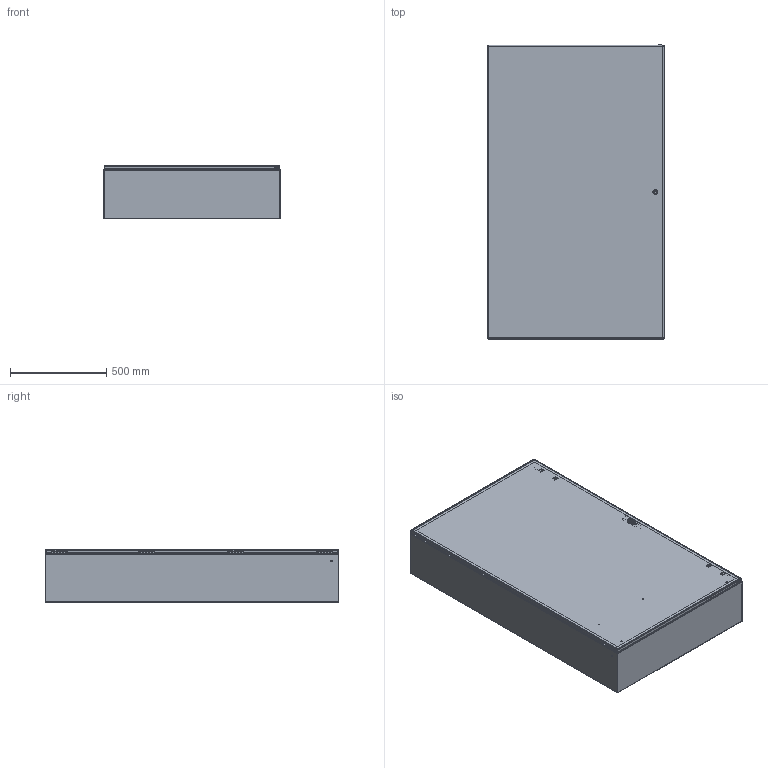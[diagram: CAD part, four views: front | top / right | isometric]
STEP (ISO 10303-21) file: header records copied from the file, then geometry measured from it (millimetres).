
FILE_DESCRIPTION (( 'STEP AP203' ), '1' );
FILE_NAME ('csd603610.STEP', '2012-06-11T21:00:59', ( 'User' ), ( 'Pentair Inc' ), 'SwSTEP 2.0', 'SolidWorks 2010', '' );
FILE_SCHEMA (( 'CONFIG_CONTROL_DESIGN' ));
Length unit declared in the file: inch
Products named in the file (37): 64206006; 64207001; 64103001; 99411834; 87932903; 64138001; 87555298; 87562939_87562939; 87938015; 87543027; 89076399; 89076193; 89056623; 87929507; 87929767; 87929769_Installed on Pin; csd603610; 87951668; 87755964_default; 87951663_default; 23271001_After Weld; 87937955_assy; 87937995_weldment; 87936154; 99401225; 51123001_Post weld; 87931362_87931362; 87408409_Unlocked; 64102001_Latch Open; 87540678; 64210001; 64202001; 64208001; 64205001; 87541995; 87541994_Installed Height; 87927840_87927840
Assembly tree (74 placements, depth 5):
  csd603610
    87929507  x4
      87929769_Installed on Pin
      87929767
    87543027  x4
    89076399  x4
      89076193
      89056623
    87951668
      87951663_default  x2
      23271001_After Weld  x8
      87755964_default
      99401225
    87937955_assy
      87932903  x6
      87408409_Unlocked
        64103001  x4
        64207001  x2
        64206006  x2
        64102001_Latch Open
          87541995
          64202001
          64205001  x2
          87541994_Installed Height
          87540678
          87927840_87927840
          64208001
          64210001
        99411834  x2
      87555298
      64138001  x2
      87938015
      87562939_87562939
      87937995_weldment
        87931362_87931362  x8
        99401225
        87936154
        51123001_Post weld
Bounding box: 914.4 x 1524.3 x 274.7 mm (x, y, z)
Volume: 8178136.6 mm3; surface area: 8779025.6 mm2
Topology: 74 solids, 74 shells, 4576 faces, 11688 edges, 7210 vertices
Faces by surface type: plane 1841, cylinder 1322, bspline 952, torus 219, cone 201, sphere 41
Entity records: 88800 total; most frequent: CARTESIAN_POINT 33305, ORIENTED_EDGE 11204, DIRECTION 9512, EDGE_CURVE 5602, VERTEX_POINT 3529, AXIS2_PLACEMENT_3D 3266, VECTOR 2980, LINE 2980
